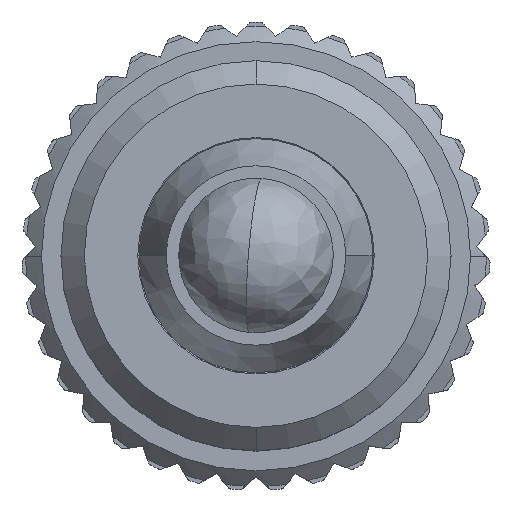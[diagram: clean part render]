
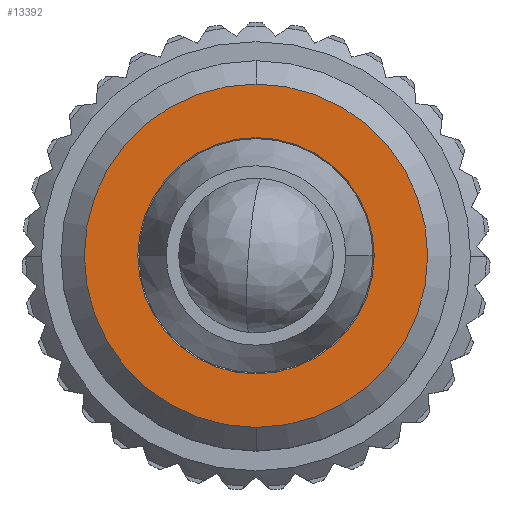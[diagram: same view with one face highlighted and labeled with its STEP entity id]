
A CAD part, top view. The second image highlights one B-rep face of the part: STEP entity #13392.
In plain terms, the highlighted planar face has unit normal (0, 0, 1).
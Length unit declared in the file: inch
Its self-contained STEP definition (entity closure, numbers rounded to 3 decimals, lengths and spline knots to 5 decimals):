
#20 = CARTESIAN_POINT ( 'NONE',  ( 0., 4.4, 9. ) ) ;
#22 = CARTESIAN_POINT ( 'NONE',  ( 0., -4.4, 9. ) ) ;
#23 = DIRECTION ( 'NONE',  ( 0., 1., 0. ) ) ;
#67 = CARTESIAN_POINT ( 'NONE',  ( 0., -3.0295, 9. ) ) ;
#74 = CARTESIAN_POINT ( 'NONE',  ( 0., 3.0295, 9. ) ) ;
#219 = DIRECTION ( 'NONE',  ( 0., -1., 0. ) ) ;
#220 = DIRECTION ( 'NONE',  ( 0., 0., 1. ) ) ;
#221 = AXIS2_PLACEMENT_3D ( 'NONE', #227, #220, #219 ) ;
#222 = CIRCLE ( 'NONE', #221, 3.0295 ) ;
#227 = CARTESIAN_POINT ( 'NONE',  ( 0., 0., 9. ) ) ;
#8373 = DIRECTION ( 'NONE',  ( 0., 1., 0. ) ) ;
#8374 = DIRECTION ( 'NONE',  ( 0., 0., -1. ) ) ;
#8375 = CARTESIAN_POINT ( 'NONE',  ( 0., 0., 9. ) ) ;
#8376 = AXIS2_PLACEMENT_3D ( 'NONE', #8375, #8374, #8373 ) ;
#8377 = CIRCLE ( 'NONE', #8376, 4.4 ) ;
#8378 = DIRECTION ( 'NONE',  ( -1., 0., 0. ) ) ;
#8379 = DIRECTION ( 'NONE',  ( 0., 0., -1. ) ) ;
#8380 = CARTESIAN_POINT ( 'NONE',  ( 0., 0., 9. ) ) ;
#8381 = AXIS2_PLACEMENT_3D ( 'NONE', #8380, #8379, #8378 ) ;
#8382 = PLANE ( 'NONE',  #8381 ) ;
#8383 = FACE_OUTER_BOUND ( 'NONE', #13396, .T. ) ;
#8384 = FACE_BOUND ( 'NONE', #13393, .T. ) ;
#8425 = DIRECTION ( 'NONE',  ( 0., -1., 0. ) ) ;
#8426 = DIRECTION ( 'NONE',  ( 0., 0., 1. ) ) ;
#8427 = AXIS2_PLACEMENT_3D ( 'NONE', #8432, #8426, #8425 ) ;
#8428 = CIRCLE ( 'NONE', #8427, 3.0295 ) ;
#8432 = CARTESIAN_POINT ( 'NONE',  ( 0., 0., 9. ) ) ;
#8591 = EDGE_CURVE ( 'NONE', #8595, #8593, #13520, .T. ) ;
#8593 = VERTEX_POINT ( 'NONE', #22 ) ;
#8595 = VERTEX_POINT ( 'NONE', #20 ) ;
#8612 = VERTEX_POINT ( 'NONE', #74 ) ;
#8619 = VERTEX_POINT ( 'NONE', #67 ) ;
#8648 = EDGE_CURVE ( 'NONE', #8612, #8619, #222, .T. ) ;
#13392 = ADVANCED_FACE ( 'NONE', ( #8384, #8383 ), #8382, .F. ) ;
#13393 = EDGE_LOOP ( 'NONE', ( #13394, #13395 ) ) ;
#13394 = ORIENTED_EDGE ( 'NONE', *, *, #13408, .F. ) ;
#13395 = ORIENTED_EDGE ( 'NONE', *, *, #8648, .F. ) ;
#13396 = EDGE_LOOP ( 'NONE', ( #13397, #13398 ) ) ;
#13397 = ORIENTED_EDGE ( 'NONE', *, *, #8591, .F. ) ;
#13398 = ORIENTED_EDGE ( 'NONE', *, *, #13399, .F. ) ;
#13399 = EDGE_CURVE ( 'NONE', #8593, #8595, #8377, .T. ) ;
#13408 = EDGE_CURVE ( 'NONE', #8619, #8612, #8428, .T. ) ;
#13518 = DIRECTION ( 'NONE',  ( 0., 0., -1. ) ) ;
#13519 = AXIS2_PLACEMENT_3D ( 'NONE', #13526, #13518, #23 ) ;
#13520 = CIRCLE ( 'NONE', #13519, 4.4 ) ;
#13526 = CARTESIAN_POINT ( 'NONE',  ( 0., 0., 9. ) ) ;
